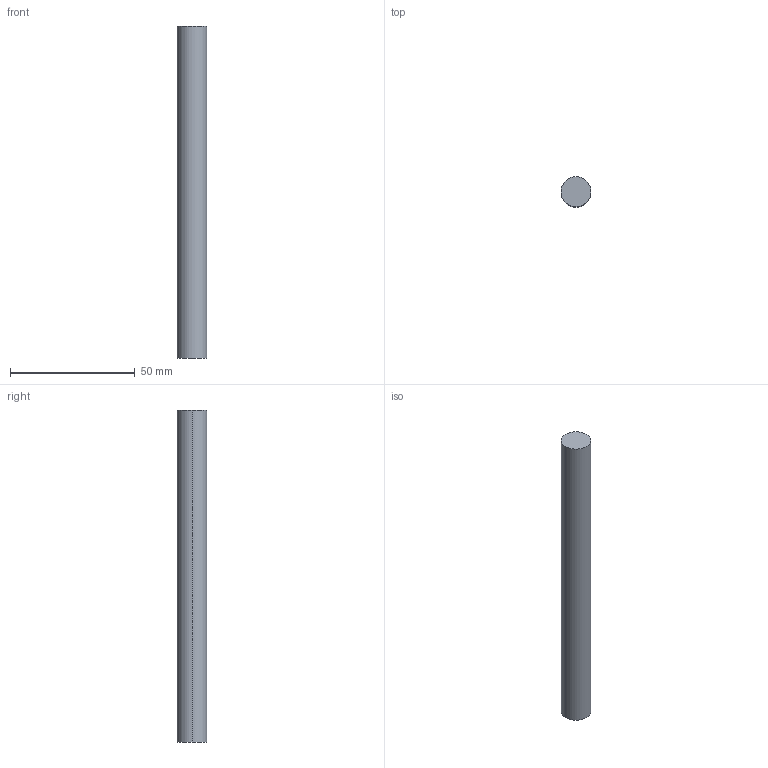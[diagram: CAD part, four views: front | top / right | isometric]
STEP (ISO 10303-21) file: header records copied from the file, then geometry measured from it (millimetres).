
FILE_DESCRIPTION (( 'STEP AP214' ), '1' );
FILE_NAME ('Innenschub H182 - S18_S19 - 250.step', '2010-09-07T14:56:00', ( 'grass' ), ( '' ), 'SwSTEP 2.0', 'SolidWorks 2010', '' );
FILE_SCHEMA (( 'AUTOMOTIVE_DESIGN' ));
Length unit declared in the file: millimetre
Products named in the file (1): Innenschub H182 - S18_S19 - 250
Bounding box: 12 x 12 x 133 mm (x, y, z)
Volume: 15041.9 mm3; surface area: 5240.2 mm2
Topology: 1 solids, 1 shells, 4 faces, 6 edges, 4 vertices
Faces by surface type: cylinder 2, plane 2
Entity records: 128 total; most frequent: DIRECTION 20, CARTESIAN_POINT 15, ORIENTED_EDGE 12, AXIS2_PLACEMENT_3D 9, EDGE_CURVE 6, FACE_OUTER_BOUND 4, EDGE_LOOP 4, CIRCLE 4
